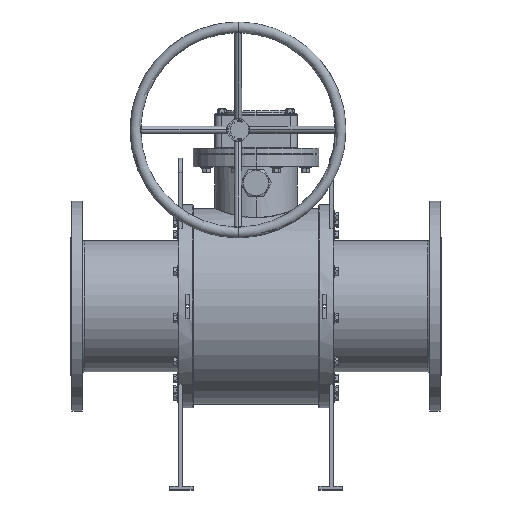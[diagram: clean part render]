
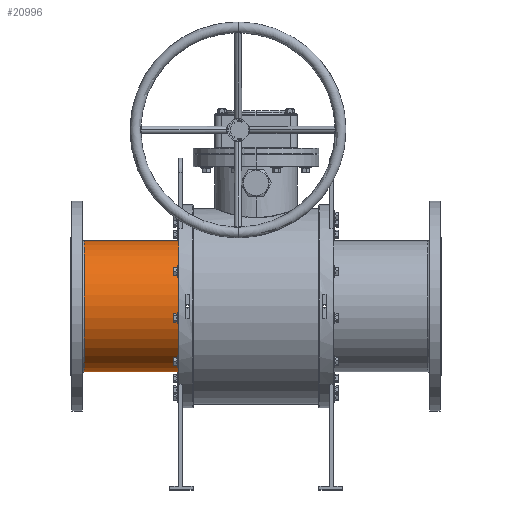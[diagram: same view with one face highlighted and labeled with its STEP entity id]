
A CAD part, top view. The second image highlights one B-rep face of the part: STEP entity #20996.
In plain terms, the highlighted cylindrical face has radius 182 mm (diameter 364 mm), a partial arc.
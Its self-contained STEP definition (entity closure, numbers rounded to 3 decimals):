
#770 = CARTESIAN_POINT ( 'NONE',  ( -514.5, 182., 0. ) ) ;
#1116 = DIRECTION ( 'NONE',  ( 0., -1., 0. ) ) ;
#1543 = ORIENTED_EDGE ( 'NONE', *, *, #23159, .T. ) ;
#1750 = CARTESIAN_POINT ( 'NONE',  ( -477.5, 182., 0. ) ) ;
#2331 = EDGE_CURVE ( 'NONE', #24446, #26193, #9082, .T. ) ;
#4581 = AXIS2_PLACEMENT_3D ( 'NONE', #24745, #27101, #8123 ) ;
#4795 = ORIENTED_EDGE ( 'NONE', *, *, #8144, .T. ) ;
#4936 = VERTEX_POINT ( 'NONE', #17136 ) ;
#6737 = CIRCLE ( 'NONE', #10303, 182. ) ;
#6928 = CARTESIAN_POINT ( 'NONE',  ( -215., 182., 0. ) ) ;
#7430 = DIRECTION ( 'NONE',  ( 1., 0., 0. ) ) ;
#8123 = DIRECTION ( 'NONE',  ( 0., 0., 1. ) ) ;
#8144 = EDGE_CURVE ( 'NONE', #8561, #24446, #20954, .T. ) ;
#8561 = VERTEX_POINT ( 'NONE', #24300 ) ;
#8907 = ORIENTED_EDGE ( 'NONE', *, *, #16580, .F. ) ;
#9082 = LINE ( 'NONE', #770, #25779 ) ;
#9658 = EDGE_LOOP ( 'NONE', ( #4795, #19909, #1543, #8907 ) ) ;
#10303 = AXIS2_PLACEMENT_3D ( 'NONE', #26433, #7430, #24334 ) ;
#11553 = AXIS2_PLACEMENT_3D ( 'NONE', #24372, #22026, #1116 ) ;
#13152 = DIRECTION ( 'NONE',  ( -1., 0., 0. ) ) ;
#16580 = EDGE_CURVE ( 'NONE', #8561, #4936, #21587, .T. ) ;
#17136 = CARTESIAN_POINT ( 'NONE',  ( -477.5, -182., 0. ) ) ;
#19284 = FACE_OUTER_BOUND ( 'NONE', #9658, .T. ) ;
#19909 = ORIENTED_EDGE ( 'NONE', *, *, #2331, .T. ) ;
#20102 = CYLINDRICAL_SURFACE ( 'NONE', #11553, 182. ) ;
#20954 = CIRCLE ( 'NONE', #4581, 182. ) ;
#20996 = ADVANCED_FACE ( 'NONE', ( #19284 ), #20102, .T. ) ;
#21587 = LINE ( 'NONE', #25719, #26334 ) ;
#22026 = DIRECTION ( 'NONE',  ( -1., 0., 0. ) ) ;
#23159 = EDGE_CURVE ( 'NONE', #26193, #4936, #6737, .T. ) ;
#23892 = DIRECTION ( 'NONE',  ( -1., 0., 0. ) ) ;
#24300 = CARTESIAN_POINT ( 'NONE',  ( -215., -182., 0. ) ) ;
#24334 = DIRECTION ( 'NONE',  ( 0., -1., 0. ) ) ;
#24372 = CARTESIAN_POINT ( 'NONE',  ( -514.5, 0., 0. ) ) ;
#24446 = VERTEX_POINT ( 'NONE', #6928 ) ;
#24745 = CARTESIAN_POINT ( 'NONE',  ( -215., 0., 0. ) ) ;
#25719 = CARTESIAN_POINT ( 'NONE',  ( -514.5, -182., 0. ) ) ;
#25779 = VECTOR ( 'NONE', #23892, 1000. ) ;
#26193 = VERTEX_POINT ( 'NONE', #1750 ) ;
#26334 = VECTOR ( 'NONE', #13152, 1000. ) ;
#26433 = CARTESIAN_POINT ( 'NONE',  ( -477.5, 0., 0. ) ) ;
#27101 = DIRECTION ( 'NONE',  ( -1., 0., 0. ) ) ;
